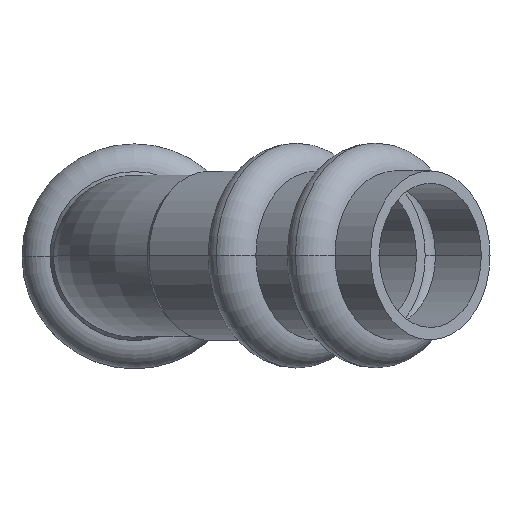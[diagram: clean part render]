
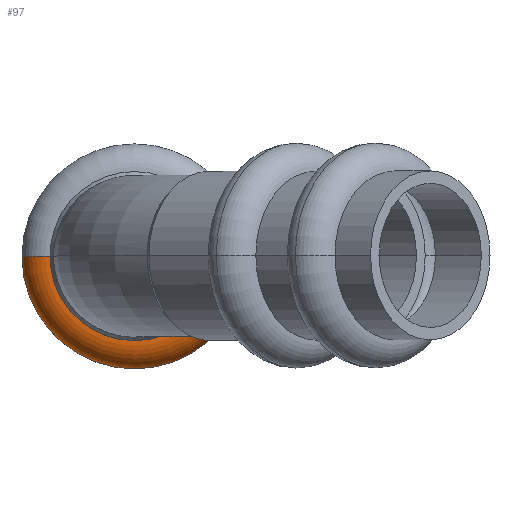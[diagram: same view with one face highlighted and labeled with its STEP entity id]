
A CAD part, top view. The second image highlights one B-rep face of the part: STEP entity #97.
In plain terms, the highlighted toroidal (fillet/blend) face has major radius 7.55 mm and minor radius 2.5 mm.
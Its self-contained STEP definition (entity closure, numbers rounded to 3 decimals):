
#97=ADVANCED_FACE('',(#250),#251,.T.);
#250=FACE_OUTER_BOUND('',#466,.T.);
#251=TOROIDAL_SURFACE('',#467,7.55,2.5);
#466=EDGE_LOOP('',(#691,#692,#693,#694));
#467=AXIS2_PLACEMENT_3D('',#695,#696,#697);
#691=ORIENTED_EDGE('',*,*,#1211,.F.);
#692=ORIENTED_EDGE('',*,*,#1212,.T.);
#693=ORIENTED_EDGE('',*,*,#1213,.T.);
#694=ORIENTED_EDGE('',*,*,#1214,.T.);
#695=CARTESIAN_POINT('',(0.,0.0,17.));
#696=DIRECTION('',(0.,0.0,-1.0));
#697=DIRECTION('',(-1.0,0.0,0.));
#1211=EDGE_CURVE('',#1422,#1423,#1424,.T.);
#1212=EDGE_CURVE('',#1422,#1425,#1426,.T.);
#1213=EDGE_CURVE('',#1425,#1427,#1428,.T.);
#1214=EDGE_CURVE('',#1427,#1423,#1429,.T.);
#1422=VERTEX_POINT('',#1835);
#1423=VERTEX_POINT('',#1836);
#1424=CIRCLE('',#1837,10.05);
#1425=VERTEX_POINT('',#1838);
#1426=CIRCLE('',#1839,2.5);
#1427=VERTEX_POINT('',#1840);
#1428=CIRCLE('',#1841,7.55);
#1429=CIRCLE('',#1842,2.5);
#1835=CARTESIAN_POINT('',(10.05,0.,17.));
#1836=CARTESIAN_POINT('',(-10.05,0.,17.));
#1837=AXIS2_PLACEMENT_3D('',#2278,#2279,#2280);
#1838=CARTESIAN_POINT('',(7.55,0.,19.5));
#1839=AXIS2_PLACEMENT_3D('',#2281,#2282,#2283);
#1840=CARTESIAN_POINT('',(-7.55,0.,19.5));
#1841=AXIS2_PLACEMENT_3D('',#2284,#2285,#2286);
#1842=AXIS2_PLACEMENT_3D('',#2287,#2288,#2289);
#2278=CARTESIAN_POINT('',(0.,0.0,17.));
#2279=DIRECTION('',(0.,0.0,-1.0));
#2280=DIRECTION('',(-1.0,0.0,0.));
#2281=CARTESIAN_POINT('',(7.55,0.,17.));
#2282=DIRECTION('',(0.,-1.0,0.));
#2283=DIRECTION('',(1.0,0.,0.));
#2284=CARTESIAN_POINT('',(0.,0.0,19.5));
#2285=DIRECTION('',(0.,0.0,-1.0));
#2286=DIRECTION('',(1.0,0.0,0.));
#2287=CARTESIAN_POINT('',(-7.55,0.,17.));
#2288=DIRECTION('',(0.,-1.0,0.));
#2289=DIRECTION('',(-1.0,0.,0.));
